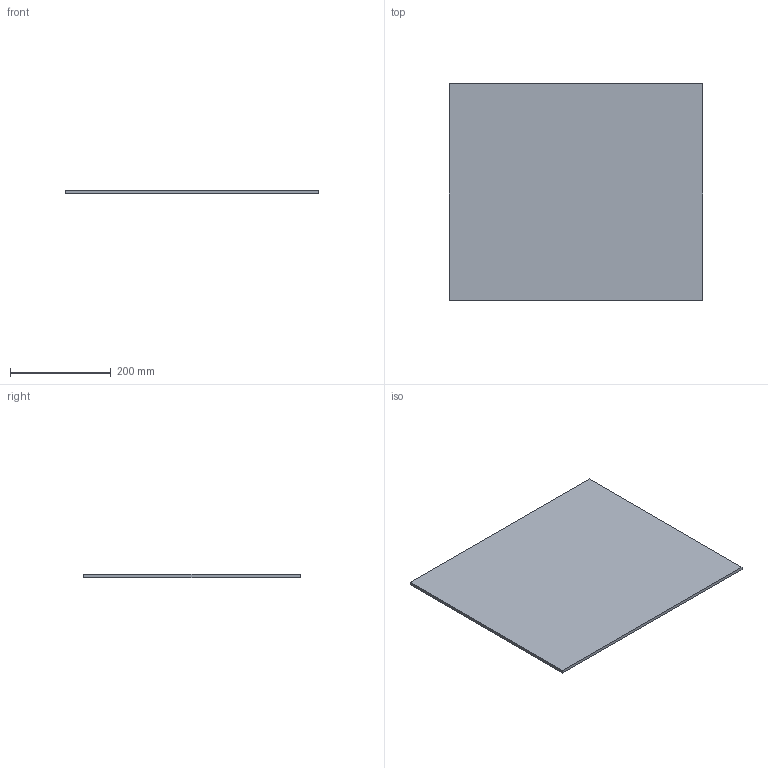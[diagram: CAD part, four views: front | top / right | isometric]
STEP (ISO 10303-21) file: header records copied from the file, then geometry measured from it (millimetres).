
FILE_DESCRIPTION (( 'STEP AP214' ), '1' );
FILE_NAME ('Lochblech_NL450_KAB600_19.step', '2010-10-11T13:38:30', ( 'grass' ), ( '' ), 'SwSTEP 2.0', 'SolidWorks 2010', '' );
FILE_SCHEMA (( 'AUTOMOTIVE_DESIGN' ));
Length unit declared in the file: millimetre
Products named in the file (1): Lochblech_NL450_KAB600_19
Bounding box: 502 x 429 x 6 mm (x, y, z)
Volume: 1292148 mm3; surface area: 441888 mm2
Topology: 1 solids, 1 shells, 6 faces, 12 edges, 8 vertices
Faces by surface type: plane 6
Entity records: 190 total; most frequent: CARTESIAN_POINT 27, DIRECTION 26, ORIENTED_EDGE 24, EDGE_CURVE 12, LINE 12, VECTOR 12, VERTEX_POINT 8, AXIS2_PLACEMENT_3D 7
